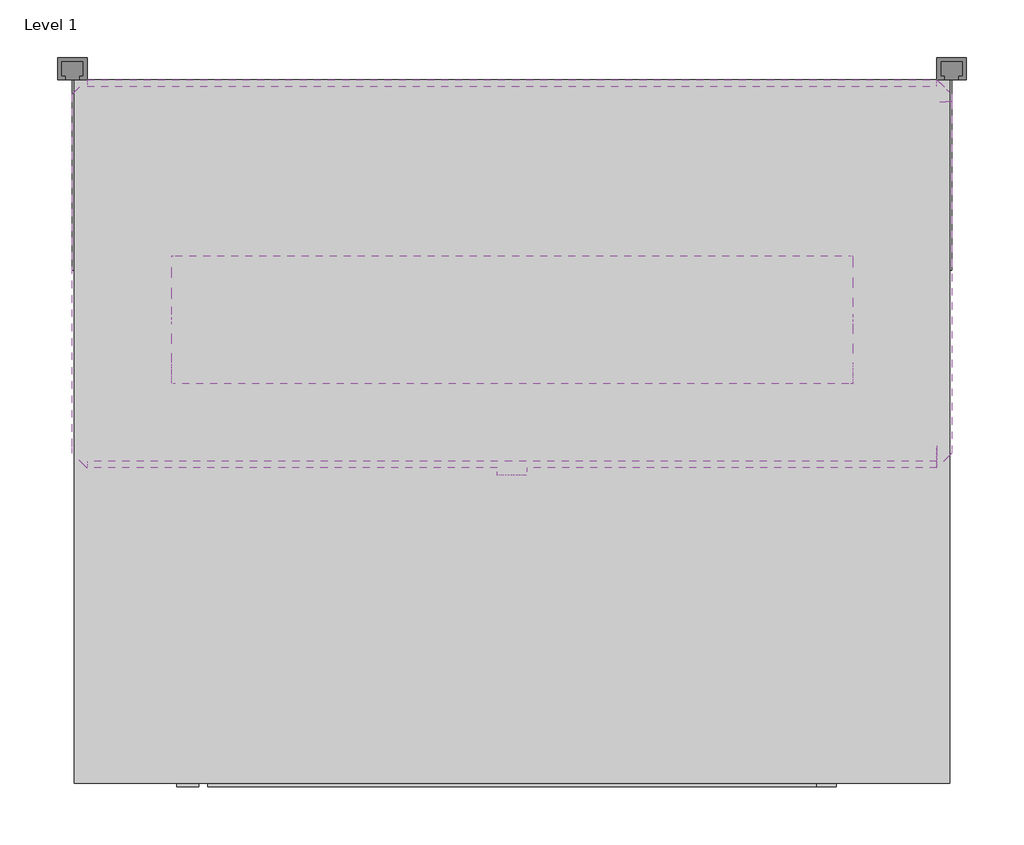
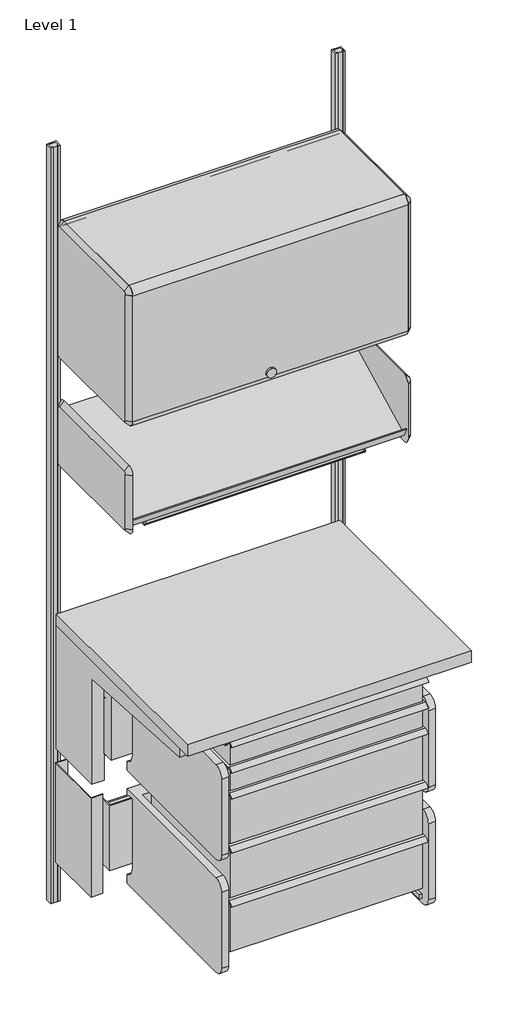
# One storey: 14 furniture elements, 1 light fixture.
"""IFC4 building model written with IfcOpenShell, lengths in millimetres."""

from ifc_helpers import new_model, si_unit, origin, place, context, project, spatial, transform, mapped, element, save
from components import furniture_236c058c, furniture_0d5b5ade, furniture_e3423f84, furniture_30ac351e, furniture_75021c9e, furniture_56be9a9d, furniture_f997a199, furniture_ea425779, a_3_959e08d9, a_3_3943aac6, b_6_f3207868, b_6_2be62e06, b_6_bdab6ed6, light_fixture_b8a277cb

model = new_model("IFC4")

# Units and contexts
model_context = context("Model", 3, world=origin())
ifc_project = project(units=[si_unit("LENGTHUNIT", "METRE", prefix="MILLI")], contexts=[model_context])

# Site, building, storey
site = spatial("IfcSite", under=ifc_project)
building = spatial("IfcBuilding", under=site)
storey = spatial("IfcBuildingStorey", under=building, Name="Level 1", Elevation=0.0)

# Furniture
placement = place(None, origin())
furniture_shape = furniture_236c058c(model_context)
element("IfcFurniture", 1, ObjectType="HermanMiller_CoStruc_C2141_Heavy-DutyWorkSurface : 24\"D x 30\"W Lam", at=placement, inside=storey, context=model_context, shape_type="MappedRepresentation", body=[
    mapped(furniture_shape, transform((304.8, -196.85, 0.0), x_axis=(1.0, 0.0, 0.0), y_axis=(0.0, 1.0, 0.0), z_axis=(0.0, 0.0, 1.0))),
])
furniture_2_shape = furniture_0d5b5ade(model_context)
element("IfcFurniture", 2, ObjectType="HermanMiller_ActionOffice_A3352_B-StyleFlipperDoorUnit : 15 1/2\"H x 13\"D x 30\"W", at=placement, inside=storey, context=model_context, shape_type="MappedRepresentation", body=[
    mapped(furniture_2_shape, transform((381.0, -200.025, 0.0), x_axis=(1.0, 0.0, 0.0), y_axis=(0.0, 1.0, 0.0), z_axis=(0.0, 0.0, 1.0))),
])
furniture_3_shape = furniture_e3423f84(model_context)
element("IfcFurniture", 3, ObjectType="HermanMiller_ActionOffice_A3220_B-StyleStorageDisplay : Display 13\"D x 30\"W", at=placement, inside=storey, context=model_context, shape_type="MappedRepresentation", body=[
    mapped(furniture_3_shape, transform((504.9420045, -200.025, 0.0), x_axis=(1.0, 0.0, 0.0), y_axis=(0.0, 1.0, 0.0), z_axis=(0.0, 0.0, 1.0))),
])
furniture_4_shape = furniture_30ac351e(model_context)
element("IfcFurniture", 4, ObjectType="HermanMiller_CoStruc_CO205_CFrame : 10\"H x 17\"D x 22\"W", at=placement, inside=storey, context=model_context, shape_type="MappedRepresentation", body=[
    mapped(furniture_4_shape, transform((281.3124951, -274.7713997, 0.0), x_axis=(1.0, 0.0, 0.0), y_axis=(0.0, 1.0, 0.0), z_axis=(0.0, 0.0, 1.0))),
])
furniture_5_shape = furniture_75021c9e(model_context)
element("IfcFurniture", 5, ObjectType="HermanMiller_CoStruc_C2192_CFrameSupport : 11\"H x 24\"D x 30\"W", at=placement, inside=storey, context=model_context, shape_type="MappedRepresentation", body=[
    mapped(furniture_5_shape, transform((381.0, 107.15625, 0.0), x_axis=(1.0, 0.0, 0.0), y_axis=(0.0, 1.0, 0.0), z_axis=(0.0, 0.0, 1.0))),
])
furniture_6_shape = furniture_56be9a9d(model_context)
element("IfcFurniture", 6, ObjectType="HermanMiller_CoStruc_CO205_CFrame : 10\"H x 17\"D x 22\"W", at=placement, inside=storey, context=model_context, shape_type="MappedRepresentation", body=[
    mapped(furniture_6_shape, transform((281.3124951, -274.7713997, 0.0), x_axis=(1.0, 0.0, 0.0), y_axis=(0.0, 1.0, 0.0), z_axis=(0.0, 0.0, 1.0))),
])
furniture_7_shape = furniture_f997a199(model_context)
element("IfcFurniture", 7, ObjectType="HermanMiller_CoStruc_C2140W_WorkSurfaceSupport_ComponentAdaptor : 14\"H x 24\"D x 30\"W", at=placement, inside=storey, context=model_context, shape_type="MappedRepresentation", body=[
    mapped(furniture_7_shape, transform((381.0, -196.85, 0.0), x_axis=(1.0, 0.0, 0.0), y_axis=(0.0, 1.0, 0.0), z_axis=(0.0, 0.0, 1.0))),
])
furniture_8_shape = furniture_ea425779(model_context)
element("IfcFurniture", 8, ObjectType="HermanMiller_ActionOffice_AO213_WallStrip : 84\"H", at=placement, inside=storey, context=model_context, shape_type="MappedRepresentation", body=[
    mapped(furniture_8_shape, transform((762.0, 0.0, 0.0), x_axis=(1.0, 0.0, 0.0), y_axis=(0.0, 1.0, 0.0), z_axis=(0.0, 0.0, 1.0))),
])
element("IfcFurniture", 9, ObjectType="HermanMiller_ActionOffice_AO213_WallStrip : 84\"H", at=placement, inside=storey, context=model_context, shape_type="MappedRepresentation", body=[
    mapped(furniture_8_shape, transform((0.0, 0.0, 0.0), x_axis=(1.0, 0.0, 0.0), y_axis=(0.0, 1.0, 0.0), z_axis=(0.0, 0.0, 1.0))),
])
a_3_shape = a_3_959e08d9(model_context)
element("IfcFurniture", 10, ObjectType="HermanMiller_CoStruc_CO207_Drawer : A - 3", at=placement, inside=storey, context=model_context, shape_type="MappedRepresentation", body=[
    mapped(a_3_shape, transform((380.9326517, -436.5879, 0.0), x_axis=(1.0, 0.0, 0.0), y_axis=(0.0, 1.0, 0.0), z_axis=(0.0, 0.0, 1.0))),
])
a_3_2_shape = a_3_3943aac6(model_context)
element("IfcFurniture", 11, ObjectType="HermanMiller_CoStruc_CO207_Drawer : A - 3", at=placement, inside=storey, context=model_context, shape_type="MappedRepresentation", body=[
    mapped(a_3_2_shape, transform((380.9326517, -436.5879, 0.0), x_axis=(1.0, 0.0, 0.0), y_axis=(0.0, 1.0, 0.0), z_axis=(0.0, 0.0, 1.0))),
])
b_6_shape = b_6_f3207868(model_context)
element("IfcFurniture", 12, ObjectType="HermanMiller_CoStruc_CO207_Drawer : B - 6", at=placement, inside=storey, context=model_context, shape_type="MappedRepresentation", body=[
    mapped(b_6_shape, transform((380.9326517, -436.5879, 0.0), x_axis=(1.0, 0.0, 0.0), y_axis=(0.0, 1.0, 0.0), z_axis=(0.0, 0.0, 1.0))),
])
b_6_2_shape = b_6_2be62e06(model_context)
element("IfcFurniture", 13, ObjectType="HermanMiller_CoStruc_CO207_Drawer : B - 6", at=placement, inside=storey, context=model_context, shape_type="MappedRepresentation", body=[
    mapped(b_6_2_shape, transform((380.9326517, -436.5879, 0.0), x_axis=(1.0, 0.0, 0.0), y_axis=(0.0, 1.0, 0.0), z_axis=(0.0, 0.0, 1.0))),
])
b_6_3_shape = b_6_bdab6ed6(model_context)
element("IfcFurniture", 14, ObjectType="HermanMiller_CoStruc_CO207_Drawer : B - 6", at=placement, inside=storey, context=model_context, shape_type="MappedRepresentation", body=[
    mapped(b_6_3_shape, transform((380.9326517, -436.5879, 0.0), x_axis=(1.0, 0.0, 0.0), y_axis=(0.0, 1.0, 0.0), z_axis=(0.0, 0.0, 1.0))),
])

# Light fixture
light_fixture_shape = light_fixture_b8a277cb(model_context)
element("IfcLightFixture", 15, ObjectType="HermanMiller_SupplementalProducts_G6136_UtilityTaskLight : AO Etho Canvas 30W", at=placement, inside=storey, context=model_context, shape_type="MappedRepresentation", body=[
    mapped(light_fixture_shape, transform((381.0, -227.0125, 0.0), x_axis=(1.0, 0.0, 0.0), y_axis=(0.0, 1.0, 0.0), z_axis=(0.0, 0.0, 1.0))),
])

save(model, "model.ifc")
